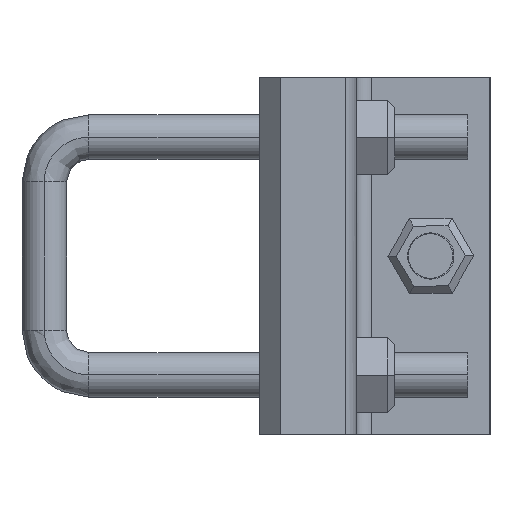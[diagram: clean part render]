
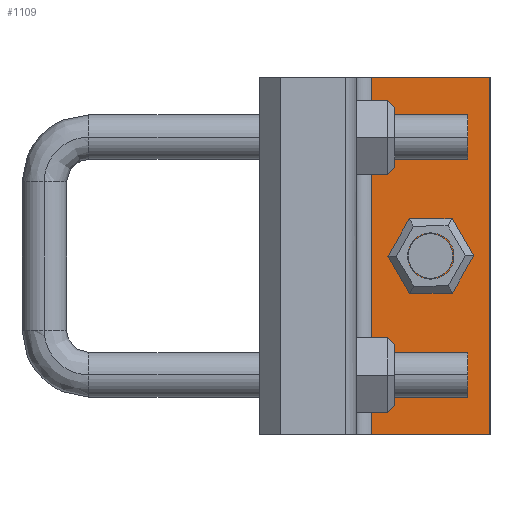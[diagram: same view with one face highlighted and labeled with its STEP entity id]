
A CAD part, left-side view. The second image highlights one B-rep face of the part: STEP entity #1109.
In plain terms, the highlighted planar face has unit normal (-1, 0, 0).
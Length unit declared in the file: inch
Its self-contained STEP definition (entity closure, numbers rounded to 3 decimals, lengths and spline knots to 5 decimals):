
#813=EDGE_CURVE('',#2056,#2057,#2058,.T.);
#1109=ADVANCED_FACE('',(#2506,#2507),#2508,.T.);
#1267=EDGE_CURVE('',#2057,#2725,#2726,.T.);
#1409=EDGE_CURVE('',#2903,#2725,#2904,.T.);
#1575=EDGE_CURVE('',#2903,#2056,#3109,.T.);
#2056=VERTEX_POINT('',#3965);
#2057=VERTEX_POINT('',#3966);
#2058=LINE('',#3967,#3968);
#2506=FACE_OUTER_BOUND('',#4873,.T.);
#2507=FACE_BOUND('',#4874,.T.);
#2508=PLANE('',#4875);
#2725=VERTEX_POINT('',#5243);
#2726=LINE('',#5244,#5245);
#2903=VERTEX_POINT('',#5622);
#2904=LINE('',#5623,#5624);
#3109=LINE('',#5973,#5974);
#3965=CARTESIAN_POINT('',(-12.0,0.0,0.0));
#3966=CARTESIAN_POINT('',(-12.0,0.0,3.0));
#3967=CARTESIAN_POINT('',(-12.0,0.0,0.0));
#3968=VECTOR('',#6735,1.0);
#4873=EDGE_LOOP('',(#7238,#7239,#7240,#7241));
#4874=EDGE_LOOP('',(#7242,#7243));
#4875=AXIS2_PLACEMENT_3D('',#7244,#7245,#7246);
#5243=CARTESIAN_POINT('',(-12.0,1.0,3.0));
#5244=CARTESIAN_POINT('',(-12.0,1.0,3.0));
#5245=VECTOR('',#7491,1.);
#5622=CARTESIAN_POINT('',(-12.0,1.0,0.0));
#5623=CARTESIAN_POINT('',(-12.0,1.0,0.0));
#5624=VECTOR('',#7706,1.0);
#5973=CARTESIAN_POINT('',(-12.0,1.0,0.0));
#5974=VECTOR('',#7982,1.0);
#6735=DIRECTION('',(0.0,0.0,1.0));
#7238=ORIENTED_EDGE('',*,*,#1267,.T.);
#7239=ORIENTED_EDGE('',*,*,#1409,.F.);
#7240=ORIENTED_EDGE('',*,*,#1575,.T.);
#7241=ORIENTED_EDGE('',*,*,#813,.T.);
#7242=ORIENTED_EDGE('',*,*,#8229,.F.);
#7243=ORIENTED_EDGE('',*,*,#8330,.F.);
#7244=CARTESIAN_POINT('',(-12.0,0.5,0.0));
#7245=DIRECTION('',(-1.0,0.0,0.0));
#7246=DIRECTION('',(0.0,-1.0,0.0));
#7491=DIRECTION('',(0.0,1.0,0.0));
#7706=DIRECTION('',(0.0,0.0,1.0));
#7982=DIRECTION('',(0.0,-1.0,0.0));
#8229=EDGE_CURVE('',#8478,#8474,#8480,.T.);
#8330=EDGE_CURVE('',#8474,#8478,#8593,.T.);
#8474=VERTEX_POINT('',#8750);
#8478=VERTEX_POINT('',#8755);
#8480=CIRCLE('',#8758,0.1875);
#8593=CIRCLE('',#8893,0.1875);
#8750=CARTESIAN_POINT('',(-12.0,0.68737,1.5));
#8755=CARTESIAN_POINT('',(-12.0,0.31237,1.5));
#8758=AXIS2_PLACEMENT_3D('',#9055,#9056,#9057);
#8893=AXIS2_PLACEMENT_3D('',#9100,#9101,#9102);
#9055=CARTESIAN_POINT('',(-12.0,0.49987,1.5));
#9056=DIRECTION('',(-1.0,0.0,0.0));
#9057=DIRECTION('',(0.0,1.0,0.0));
#9100=CARTESIAN_POINT('',(-12.0,0.49987,1.5));
#9101=DIRECTION('',(-1.0,0.0,0.0));
#9102=DIRECTION('',(0.0,1.0,0.0));
